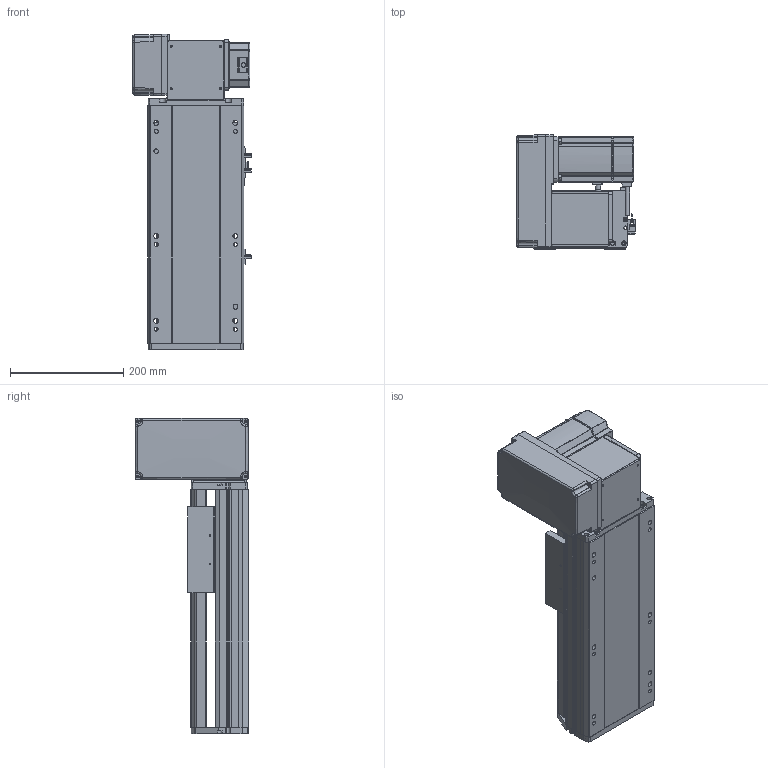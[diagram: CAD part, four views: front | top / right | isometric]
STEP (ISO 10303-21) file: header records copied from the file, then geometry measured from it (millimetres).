
FILE_DESCRIPTION (( 'STEP AP214' ), '1' );
FILE_NAME ('RTB17S-XX-150-LW-M75-C4.STEP', '2025-12-12T00:58:43', ( '' ), ( '' ), 'SwSTEP 2.0', 'SolidWorks 2018', '' );
FILE_SCHEMA (( 'AUTOMOTIVE_DESIGN' ));
Length unit declared in the file: millimetre
Products named in the file (15): RTB17S-LW-々湍釱蚾饜-750W^RTB17S-XX-XX-LW-M75-C4; RTB17S-XX-150-LW-M75-C4; RTB22S-GY-008-M75--萇儂啣^RTB17S-LW-々湍釱蚾饜-750W_RTB17S-XX-XX-LW-M75-C4; RTB17S-L-007奻裔^RTB17S-XX-XX-LW-M75-C4; RTB22S-GY-005P^RTB17S-LW-々湍釱蚾饜-750W_RTB17S-XX-XX-LW-M75-C4; RTB22S-GY-017P^RTB17S-LW-々湍釱蚾饜-750W_RTB17S-XX-XX-LW-M75-C4; RTB17S-L-001-耜醱啣^RTB17S-XX-XX-LW-M75-C4; RTB17-R-011菁釱^RTB17S-XX-XX-LW-M75-C4; RTH13-BL-012覜茼え俋离^RTB17S-賑釱_RTB17S-XX-XX-LW-M75-C4; RTB17S-賑釱^RTB17S-XX-XX-LW-M75-C4; RTB17S-L-004-賑釱^RTB17S-賑釱_RTB17S-XX-XX-LW-M75-C4; 750W萇儂^RTB17S-XX-XX-LW-M75-C4; EE672^RTB17S-XX-XX-LW-M75-C4; RTB22S-GY-018P^RTB17S-LW-々湍釱蚾饜-750W_RTB17S-XX-XX-LW-M75-C4; RTB17S-L-014-T20-P75--々湍釱^RTB17S-LW-々湍釱蚾饜-750W_RTB17S-XX-XX-LW-M75-C4
Assembly tree (17 placements, depth 3):
  RTB17S-XX-150-LW-M75-C4
    RTB17-R-011菁釱^RTB17S-XX-XX-LW-M75-C4
    EE672^RTB17S-XX-XX-LW-M75-C4  x3
    RTB17S-L-001-耜醱啣^RTB17S-XX-XX-LW-M75-C4
    RTB17S-賑釱^RTB17S-XX-XX-LW-M75-C4
      RTB17S-L-004-賑釱^RTB17S-賑釱_RTB17S-XX-XX-LW-M75-C4
      RTH13-BL-012覜茼え俋离^RTB17S-賑釱_RTB17S-XX-XX-LW-M75-C4
    RTB17S-L-007奻裔^RTB17S-XX-XX-LW-M75-C4
    750W萇儂^RTB17S-XX-XX-LW-M75-C4
    RTB17S-LW-々湍釱蚾饜-750W^RTB17S-XX-XX-LW-M75-C4
      RTB17S-L-014-T20-P75--々湍釱^RTB17S-LW-々湍釱蚾饜-750W_RTB17S-XX-XX-LW-M75-C4
      RTB22S-GY-005P^RTB17S-LW-々湍釱蚾饜-750W_RTB17S-XX-XX-LW-M75-C4
      RTB22S-GY-017P^RTB17S-LW-々湍釱蚾饜-750W_RTB17S-XX-XX-LW-M75-C4  x2
      RTB22S-GY-008-M75--萇儂啣^RTB17S-LW-々湍釱蚾饜-750W_RTB17S-XX-XX-LW-M75-C4
      RTB22S-GY-018P^RTB17S-LW-々湍釱蚾饜-750W_RTB17S-XX-XX-LW-M75-C4
Bounding box: 210.4 x 201.5 x 557.5 mm (x, y, z)
Volume: 6887654.1 mm3; surface area: 1026839.2 mm2
Topology: 17 solids, 17 shells, 2025 faces, 5566 edges, 3590 vertices
Faces by surface type: plane 962, cylinder 647, bspline 294, cone 110, sphere 8, torus 4
Entity records: 55030 total; most frequent: CARTESIAN_POINT 16030, ORIENTED_EDGE 7976, DIRECTION 7502, EDGE_CURVE 3988, AXIS2_PLACEMENT_3D 2610, VERTEX_POINT 2594, VECTOR 2282, LINE 2282
